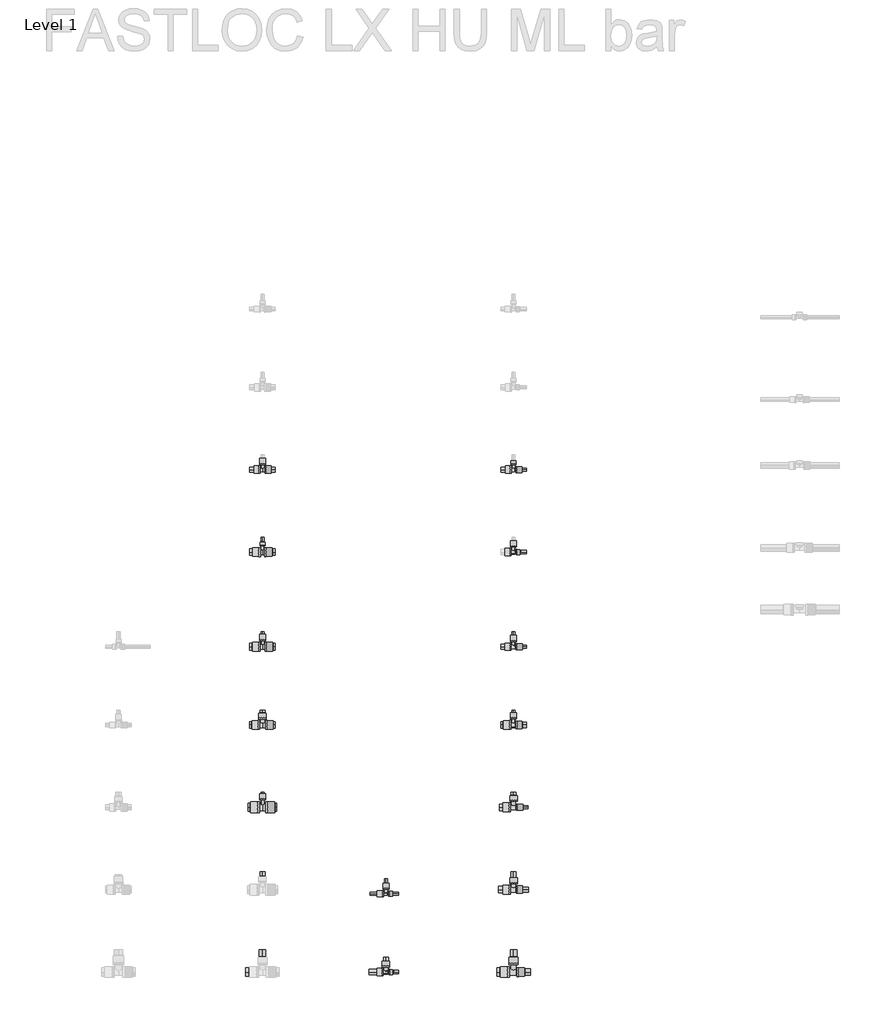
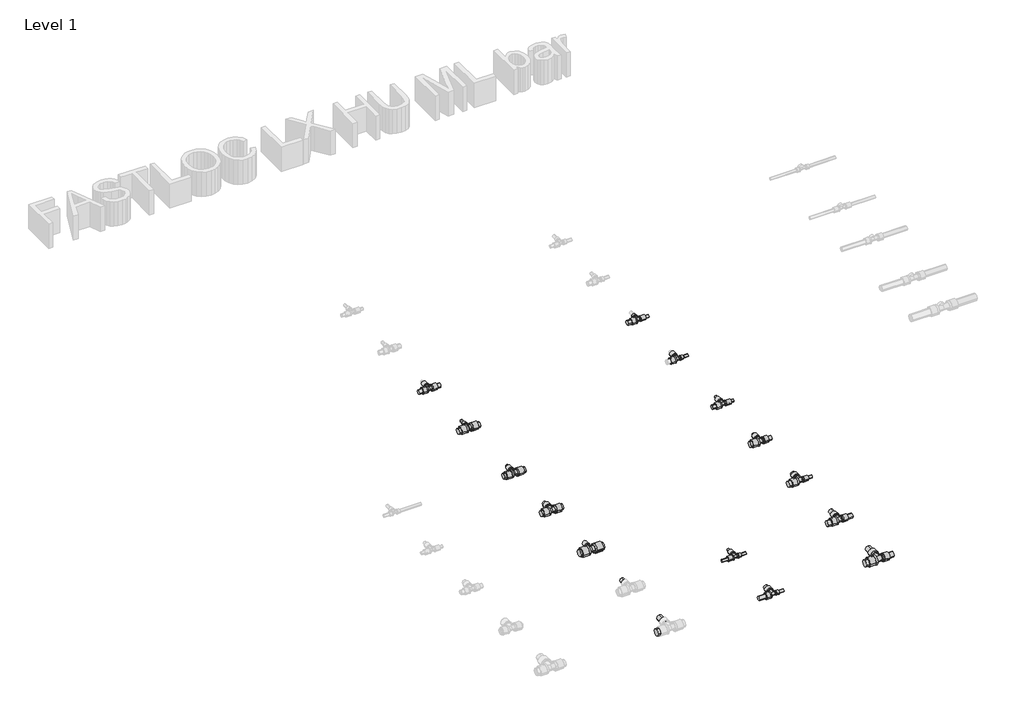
# One storey, part 25 of 78: 41 pipe segments, 14 pipe fittings.
"""IFC4 building model written with IfcOpenShell, lengths in millimetres."""

from ifc_helpers import new_model, si_unit, point, frame, frame_2d, origin, place, context, project, spatial, circle_curve, trimmed, segment, composite_curve, outline, extrude, transform, mapped, element, save
from components import pipe_fitting_7435f538, pipe_fitting_b40a3e3c, pipe_fitting_68251213, pipe_fitting_d9a56b63, pipe_fitting_a094db19, pipe_fitting_19df1a9e, pipe_fitting_16730f07, pipe_fitting_5d5decb5, pipe_fitting_f2600fd0, pipe_fitting_8d489ee2, pipe_fitting_c4e8b4db, pipe_fitting_757463f1, pipe_fitting_3bea6388, pipe_fitting_e638986c

model = new_model("IFC4")

# Units and contexts
model_context = context("Model", 3, world=origin())
ifc_project = project(units=[si_unit("LENGTHUNIT", "METRE", prefix="MILLI")], contexts=[model_context])

# Site, building, storey
site = spatial("IfcSite", under=ifc_project)
building = spatial("IfcBuilding", under=site)
storey = spatial("IfcBuildingStorey", under=building, Name="Level 1", Elevation=0.0)

# Pipe fittings
placement = place(None, origin())
pipe_fitting_shape = pipe_fitting_7435f538(model_context)
element("IfcPipeFitting", 1, ObjectType="FASTLOC_T-piece_LX : FSL T-Piece LX HU", at=placement, inside=storey, context=model_context, shape_type="MappedRepresentation", body=[
    mapped(pipe_fitting_shape, transform((426.7498072, -2880.2405791, 0.0), x_axis=(1.0, 0.0, 0.0), y_axis=(0.0, 1.0, 0.0), z_axis=(0.0, 0.0, 1.0))),
])
pipe_fitting_2_shape = pipe_fitting_b40a3e3c(model_context)
element("IfcPipeFitting", 2, ObjectType="FASTLOC_T-piece_LX : FSL T-Piece LX HU", at=placement, inside=storey, context=model_context, shape_type="MappedRepresentation", body=[
    mapped(pipe_fitting_2_shape, transform((426.7498072, -3260.2405791, 0.0), x_axis=(1.0, 0.0, 0.0), y_axis=(0.0, 1.0, 0.0), z_axis=(0.0, 0.0, 1.0))),
])
pipe_fitting_3_shape = pipe_fitting_68251213(model_context)
element("IfcPipeFitting", 3, ObjectType="FASTLOC_T-piece_LX : FSL T-Piece LX HU", at=placement, inside=storey, context=model_context, shape_type="MappedRepresentation", body=[
    mapped(pipe_fitting_3_shape, transform((426.7498072, -3660.2405791, 0.0), x_axis=(1.0, 0.0, 0.0), y_axis=(0.0, 1.0, 0.0), z_axis=(0.0, 0.0, 1.0))),
])
pipe_fitting_4_shape = pipe_fitting_d9a56b63(model_context)
element("IfcPipeFitting", 4, ObjectType="FASTLOC_T-piece_LX : FSL T-Piece LX HU", at=placement, inside=storey, context=model_context, shape_type="MappedRepresentation", body=[
    mapped(pipe_fitting_4_shape, transform((426.7498072, -2020.2405791, 0.0), x_axis=(1.0, 0.0, 0.0), y_axis=(0.0, 1.0, 0.0), z_axis=(0.0, 0.0, 1.0))),
])
pipe_fitting_5_shape = pipe_fitting_a094db19(model_context)
element("IfcPipeFitting", 5, ObjectType="FASTLOC_T-piece_LX : FSL T-Piece LX HU", at=placement, inside=storey, context=model_context, shape_type="MappedRepresentation", body=[
    mapped(pipe_fitting_5_shape, transform((426.7498072, -2420.2405791, 0.0), x_axis=(1.0, 0.0, 0.0), y_axis=(0.0, 1.0, 0.0), z_axis=(0.0, 0.0, 1.0))),
])
pipe_fitting_6_shape = pipe_fitting_19df1a9e(model_context)
element("IfcPipeFitting", 6, ObjectType="FASTLOC_T-piece_LX : FSL T-Piece LX HU", at=placement, inside=storey, context=model_context, shape_type="MappedRepresentation", body=[
    mapped(pipe_fitting_6_shape, transform((1026.7498072, -4080.2405791, 0.0), x_axis=(1.0, 0.0, 0.0), y_axis=(0.0, 1.0, 0.0), z_axis=(0.0, 0.0, 1.0))),
])
pipe_fitting_7_shape = pipe_fitting_16730f07(model_context)
element("IfcPipeFitting", 7, ObjectType="FASTLOC_T-piece_LX : FSL T-Piece LX HU", at=placement, inside=storey, context=model_context, shape_type="MappedRepresentation", body=[
    mapped(pipe_fitting_7_shape, transform((1026.7498072, -4460.2405791, 0.0), x_axis=(1.0, 0.0, 0.0), y_axis=(0.0, 1.0, 0.0), z_axis=(0.0, 0.0, 1.0))),
])
pipe_fitting_8_shape = pipe_fitting_5d5decb5(model_context)
element("IfcPipeFitting", 8, ObjectType="FASTLOC_T-piece_LX : FSL T-Piece LX HU", at=placement, inside=storey, context=model_context, shape_type="MappedRepresentation", body=[
    mapped(pipe_fitting_8_shape, transform((1646.7498072, -2880.2405791, 0.0), x_axis=(1.0, 0.0, 0.0), y_axis=(0.0, 1.0, 0.0), z_axis=(0.0, 0.0, 1.0))),
])
pipe_fitting_9_shape = pipe_fitting_f2600fd0(model_context)
element("IfcPipeFitting", 9, ObjectType="FASTLOC_T-piece_LX : FSL T-Piece LX HU", at=placement, inside=storey, context=model_context, shape_type="MappedRepresentation", body=[
    mapped(pipe_fitting_9_shape, transform((1646.7498072, -3260.2405791, 0.0), x_axis=(1.0, 0.0, 0.0), y_axis=(0.0, 1.0, 0.0), z_axis=(0.0, 0.0, 1.0))),
])
pipe_fitting_10_shape = pipe_fitting_8d489ee2(model_context)
element("IfcPipeFitting", 10, ObjectType="FASTLOC_T-piece_LX : FSL T-Piece LX HU", at=placement, inside=storey, context=model_context, shape_type="MappedRepresentation", body=[
    mapped(pipe_fitting_10_shape, transform((1646.7498072, -3660.2405791, 0.0), x_axis=(1.0, 0.0, 0.0), y_axis=(0.0, 1.0, 0.0), z_axis=(0.0, 0.0, 1.0))),
])
pipe_fitting_11_shape = pipe_fitting_c4e8b4db(model_context)
element("IfcPipeFitting", 11, ObjectType="FASTLOC_T-piece_LX : FSL T-Piece LX HU", at=placement, inside=storey, context=model_context, shape_type="MappedRepresentation", body=[
    mapped(pipe_fitting_11_shape, transform((1646.7498072, -4060.2405791, 0.0), x_axis=(1.0, 0.0, 0.0), y_axis=(0.0, 1.0, 0.0), z_axis=(0.0, 0.0, 1.0))),
])
pipe_fitting_12_shape = pipe_fitting_757463f1(model_context)
element("IfcPipeFitting", 12, ObjectType="FASTLOC_T-piece_LX : FSL T-Piece LX HU", at=placement, inside=storey, context=model_context, shape_type="MappedRepresentation", body=[
    mapped(pipe_fitting_12_shape, transform((1646.7498072, -4460.2405791, 0.0), x_axis=(1.0, 0.0, 0.0), y_axis=(0.0, 1.0, 0.0), z_axis=(0.0, 0.0, 1.0))),
])
pipe_fitting_13_shape = pipe_fitting_3bea6388(model_context)
element("IfcPipeFitting", 13, ObjectType="FASTLOC_T-piece_LX : FSL T-Piece LX HU", at=placement, inside=storey, context=model_context, shape_type="MappedRepresentation", body=[
    mapped(pipe_fitting_13_shape, transform((1646.7498072, -2020.2405791, 0.0), x_axis=(1.0, 0.0, 0.0), y_axis=(0.0, 1.0, 0.0), z_axis=(0.0, 0.0, 1.0))),
])
pipe_fitting_14_shape = pipe_fitting_e638986c(model_context)
element("IfcPipeFitting", 14, ObjectType="FASTLOC_T-piece_LX : FSL T-Piece LX HU", at=placement, inside=storey, context=model_context, shape_type="MappedRepresentation", body=[
    mapped(pipe_fitting_14_shape, transform((1646.7498072, -2420.2405791, 0.0), x_axis=(1.0, 0.0, 0.0), y_axis=(0.0, 1.0, 0.0), z_axis=(0.0, 0.0, 1.0))),
])

# Pipe segments
element("IfcPipeSegment", 15, ObjectType="FASTLOC LX ML HU bar", at=placement, inside=storey, context=model_context, shape_type="SweptSolid", body=[
    extrude(outline(composite_curve([segment(trimmed(circle_curve(frame_2d((-2880.2405791, 0.0)), 16.0), [point((-2896.2405791, 0.0))], [point((-2880.2405791, 16.0))], False, "CARTESIAN"), True, "CONTINUOUS"), segment(trimmed(circle_curve(frame_2d((-2880.2405791, 0.0)), 16.0), [point((-2880.2405791, 16.0))], [point((-2864.2405791, 0.0))], False, "CARTESIAN"), True, "CONTINUOUS"), segment(trimmed(circle_curve(frame_2d((-2880.2405791, 0.0)), 16.0), [point((-2864.2405791, 0.0))], [point((-2880.2405791, -16.0))], False, "CARTESIAN"), True, "CONTINUOUS"), segment(trimmed(circle_curve(frame_2d((-2880.2405791, 0.0)), 16.0), [point((-2880.2405791, -16.0))], [point((-2896.2405791, 0.0))], False, "CARTESIAN"), True, "CONTINUOUS")], self_intersect=False)), frame((446.9498072, 0.0, 0.0), z_axis=(1.0, 0.0, 0.0), x_axis=(0.0, 1.0, 0.0)), (0.0, 0.0, 1.0), 41.8),
])
element("IfcPipeSegment", 16, ObjectType="FASTLOC LX ML HU bar", at=placement, inside=storey, context=model_context, shape_type="SweptSolid", body=[
    extrude(outline(composite_curve([segment(trimmed(circle_curve(frame_2d((-2880.2405791, 0.0)), 16.0), [point((-2864.2405791, 0.0))], [point((-2880.2405791, -16.0))], False, "CARTESIAN"), True, "CONTINUOUS"), segment(trimmed(circle_curve(frame_2d((-2880.2405791, 0.0)), 16.0), [point((-2880.2405791, -16.0))], [point((-2896.2405791, 0.0))], False, "CARTESIAN"), True, "CONTINUOUS"), segment(trimmed(circle_curve(frame_2d((-2880.2405791, 0.0)), 16.0), [point((-2896.2405791, 0.0))], [point((-2880.2405791, 16.0))], False, "CARTESIAN"), True, "CONTINUOUS"), segment(trimmed(circle_curve(frame_2d((-2880.2405791, 0.0)), 16.0), [point((-2880.2405791, 16.0))], [point((-2864.2405791, 0.0))], False, "CARTESIAN"), True, "CONTINUOUS")], self_intersect=False)), frame((364.7498072, 0.0, 0.0), z_axis=(1.0, 0.0, 0.0), x_axis=(0.0, 1.0, 0.0)), (0.0, 0.0, 1.0), 41.8),
])
element("IfcPipeSegment", 17, ObjectType="FASTLOC LX ML HU bar", at=placement, inside=storey, context=model_context, shape_type="SweptSolid", body=[
    extrude(outline(composite_curve([segment(trimmed(circle_curve(frame_2d((0.0, 426.7498072)), 8.0), [point((0.0, 434.7498072))], [point((8.0, 426.7498072))], False, "CARTESIAN"), True, "CONTINUOUS"), segment(trimmed(circle_curve(frame_2d((0.0, 426.7498072)), 8.0), [point((8.0, 426.7498072))], [point((0.0, 418.7498072))], False, "CARTESIAN"), True, "CONTINUOUS"), segment(trimmed(circle_curve(frame_2d((0.0, 426.7498072)), 8.0), [point((0.0, 418.7498072))], [point((-8.0, 426.7498072))], False, "CARTESIAN"), True, "CONTINUOUS"), segment(trimmed(circle_curve(frame_2d((0.0, 426.7498072)), 8.0), [point((-8.0, 426.7498072))], [point((0.0, 434.7498072))], False, "CARTESIAN"), True, "CONTINUOUS")], self_intersect=False)), frame((0.0, -2846.2405791, 0.0), z_axis=(0.0, 1.0, 0.0), x_axis=(0.0, 0.0, 1.0)), (0.0, 0.0, 1.0), 38.3),
])
element("IfcPipeSegment", 18, ObjectType="FASTLOC LX ML HU bar", at=placement, inside=storey, context=model_context, shape_type="SweptSolid", body=[
    extrude(outline(composite_curve([segment(trimmed(circle_curve(frame_2d((-3260.2405791, 0.0)), 16.0), [point((-3276.2405791, 0.0))], [point((-3260.2405791, 16.0))], False, "CARTESIAN"), True, "CONTINUOUS"), segment(trimmed(circle_curve(frame_2d((-3260.2405791, 0.0)), 16.0), [point((-3260.2405791, 16.0))], [point((-3244.2405791, 0.0))], False, "CARTESIAN"), True, "CONTINUOUS"), segment(trimmed(circle_curve(frame_2d((-3260.2405791, 0.0)), 16.0), [point((-3244.2405791, 0.0))], [point((-3260.2405791, -16.0))], False, "CARTESIAN"), True, "CONTINUOUS"), segment(trimmed(circle_curve(frame_2d((-3260.2405791, 0.0)), 16.0), [point((-3260.2405791, -16.0))], [point((-3276.2405791, 0.0))], False, "CARTESIAN"), True, "CONTINUOUS")], self_intersect=False)), frame((448.7498072, 0.0, 0.0), z_axis=(1.0, 0.0, 0.0), x_axis=(0.0, 1.0, 0.0)), (0.0, 0.0, 1.0), 40.0),
])
element("IfcPipeSegment", 19, ObjectType="FASTLOC LX ML HU bar", at=placement, inside=storey, context=model_context, shape_type="SweptSolid", body=[
    extrude(outline(composite_curve([segment(trimmed(circle_curve(frame_2d((-3260.2405791, 0.0)), 16.0), [point((-3244.2405791, 0.0))], [point((-3260.2405791, -16.0))], False, "CARTESIAN"), True, "CONTINUOUS"), segment(trimmed(circle_curve(frame_2d((-3260.2405791, 0.0)), 16.0), [point((-3260.2405791, -16.0))], [point((-3276.2405791, 0.0))], False, "CARTESIAN"), True, "CONTINUOUS"), segment(trimmed(circle_curve(frame_2d((-3260.2405791, 0.0)), 16.0), [point((-3276.2405791, 0.0))], [point((-3260.2405791, 16.0))], False, "CARTESIAN"), True, "CONTINUOUS"), segment(trimmed(circle_curve(frame_2d((-3260.2405791, 0.0)), 16.0), [point((-3260.2405791, 16.0))], [point((-3244.2405791, 0.0))], False, "CARTESIAN"), True, "CONTINUOUS")], self_intersect=False)), frame((364.7498072, 0.0, 0.0), z_axis=(1.0, 0.0, 0.0), x_axis=(0.0, 1.0, 0.0)), (0.0, 0.0, 1.0), 40.0),
])
element("IfcPipeSegment", 20, ObjectType="FASTLOC LX ML HU bar", at=placement, inside=storey, context=model_context, shape_type="SweptSolid", body=[
    extrude(outline(composite_curve([segment(trimmed(circle_curve(frame_2d((0.0, 426.7498072)), 12.5), [point((0.0, 439.2498072))], [point((12.5, 426.7498072))], False, "CARTESIAN"), True, "CONTINUOUS"), segment(trimmed(circle_curve(frame_2d((0.0, 426.7498072)), 12.5), [point((12.5, 426.7498072))], [point((0.0, 414.2498072))], False, "CARTESIAN"), True, "CONTINUOUS"), segment(trimmed(circle_curve(frame_2d((0.0, 426.7498072)), 12.5), [point((0.0, 414.2498072))], [point((-12.5, 426.7498072))], False, "CARTESIAN"), True, "CONTINUOUS"), segment(trimmed(circle_curve(frame_2d((0.0, 426.7498072)), 12.5), [point((-12.5, 426.7498072))], [point((0.0, 439.2498072))], False, "CARTESIAN"), True, "CONTINUOUS")], self_intersect=False)), frame((0.0, -3225.8405791, 0.0), z_axis=(0.0, 1.0, 0.0), x_axis=(0.0, 0.0, 1.0)), (0.0, 0.0, 1.0), 37.9),
])
element("IfcPipeSegment", 21, ObjectType="FASTLOC LX ML HU bar", at=placement, inside=storey, context=model_context, shape_type="SweptSolid", body=[
    extrude(outline(composite_curve([segment(trimmed(circle_curve(frame_2d((-3660.2405791, 0.0)), 20.0), [point((-3680.2405791, 0.0))], [point((-3660.2405791, 20.0))], False, "CARTESIAN"), True, "CONTINUOUS"), segment(trimmed(circle_curve(frame_2d((-3660.2405791, 0.0)), 20.0), [point((-3660.2405791, 20.0))], [point((-3640.2405791, 0.0))], False, "CARTESIAN"), True, "CONTINUOUS"), segment(trimmed(circle_curve(frame_2d((-3660.2405791, 0.0)), 20.0), [point((-3640.2405791, 0.0))], [point((-3660.2405791, -20.0))], False, "CARTESIAN"), True, "CONTINUOUS"), segment(trimmed(circle_curve(frame_2d((-3660.2405791, 0.0)), 20.0), [point((-3660.2405791, -20.0))], [point((-3680.2405791, 0.0))], False, "CARTESIAN"), True, "CONTINUOUS")], self_intersect=False)), frame((450.7498072, 0.0, 0.0), z_axis=(1.0, 0.0, 0.0), x_axis=(0.0, 1.0, 0.0)), (0.0, 0.0, 1.0), 45.0),
])
element("IfcPipeSegment", 22, ObjectType="FASTLOC LX ML HU bar", at=placement, inside=storey, context=model_context, shape_type="SweptSolid", body=[
    extrude(outline(composite_curve([segment(trimmed(circle_curve(frame_2d((-3660.2405791, 0.0)), 20.0), [point((-3640.2405791, 0.0))], [point((-3660.2405791, -20.0))], False, "CARTESIAN"), True, "CONTINUOUS"), segment(trimmed(circle_curve(frame_2d((-3660.2405791, 0.0)), 20.0), [point((-3660.2405791, -20.0))], [point((-3680.2405791, 0.0))], False, "CARTESIAN"), True, "CONTINUOUS"), segment(trimmed(circle_curve(frame_2d((-3660.2405791, 0.0)), 20.0), [point((-3680.2405791, 0.0))], [point((-3660.2405791, 20.0))], False, "CARTESIAN"), True, "CONTINUOUS"), segment(trimmed(circle_curve(frame_2d((-3660.2405791, 0.0)), 20.0), [point((-3660.2405791, 20.0))], [point((-3640.2405791, 0.0))], False, "CARTESIAN"), True, "CONTINUOUS")], self_intersect=False)), frame((357.7498072, 0.0, 0.0), z_axis=(1.0, 0.0, 0.0), x_axis=(0.0, 1.0, 0.0)), (0.0, 0.0, 1.0), 45.0),
])
element("IfcPipeSegment", 23, ObjectType="FASTLOC LX ML HU bar", at=placement, inside=storey, context=model_context, shape_type="SweptSolid", body=[
    extrude(outline(composite_curve([segment(trimmed(circle_curve(frame_2d((0.0, 426.7498072)), 8.0), [point((0.0, 434.7498072))], [point((8.0, 426.7498072))], False, "CARTESIAN"), True, "CONTINUOUS"), segment(trimmed(circle_curve(frame_2d((0.0, 426.7498072)), 8.0), [point((8.0, 426.7498072))], [point((0.0, 418.7498072))], False, "CARTESIAN"), True, "CONTINUOUS"), segment(trimmed(circle_curve(frame_2d((0.0, 426.7498072)), 8.0), [point((0.0, 418.7498072))], [point((-8.0, 426.7498072))], False, "CARTESIAN"), True, "CONTINUOUS"), segment(trimmed(circle_curve(frame_2d((0.0, 426.7498072)), 8.0), [point((-8.0, 426.7498072))], [point((0.0, 434.7498072))], False, "CARTESIAN"), True, "CONTINUOUS")], self_intersect=False)), frame((0.0, -3619.7405791, 0.0), z_axis=(0.0, 1.0, 0.0), x_axis=(0.0, 0.0, 1.0)), (0.0, 0.0, 1.0), 31.8),
])
element("IfcPipeSegment", 24, ObjectType="FASTLOC LX ML HU bar", at=placement, inside=storey, context=model_context, shape_type="SweptSolid", body=[
    extrude(outline(composite_curve([segment(trimmed(circle_curve(frame_2d((0.0, 426.7498072)), 12.5), [point((0.0, 439.2498072))], [point((12.5, 426.7498072))], False, "CARTESIAN"), True, "CONTINUOUS"), segment(trimmed(circle_curve(frame_2d((0.0, 426.7498072)), 12.5), [point((12.5, 426.7498072))], [point((0.0, 414.2498072))], False, "CARTESIAN"), True, "CONTINUOUS"), segment(trimmed(circle_curve(frame_2d((0.0, 426.7498072)), 12.5), [point((0.0, 414.2498072))], [point((-12.5, 426.7498072))], False, "CARTESIAN"), True, "CONTINUOUS"), segment(trimmed(circle_curve(frame_2d((0.0, 426.7498072)), 12.5), [point((-12.5, 426.7498072))], [point((0.0, 439.2498072))], False, "CARTESIAN"), True, "CONTINUOUS")], self_intersect=False)), frame((0.0, -4019.2405791, 0.0), z_axis=(0.0, 1.0, 0.0), x_axis=(0.0, 0.0, 1.0)), (0.0, 0.0, 1.0), 46.8),
])
element("IfcPipeSegment", 25, ObjectType="FASTLOC LX ML HU bar", at=placement, inside=storey, context=model_context, shape_type="SweptSolid", body=[
    extrude(outline(composite_curve([segment(trimmed(circle_curve(frame_2d((-4460.2405791, 0.0)), 20.0), [point((-4440.2405791, 0.0))], [point((-4460.2405791, -20.0))], False, "CARTESIAN"), True, "CONTINUOUS"), segment(trimmed(circle_curve(frame_2d((-4460.2405791, 0.0)), 20.0), [point((-4460.2405791, -20.0))], [point((-4480.2405791, 0.0))], False, "CARTESIAN"), True, "CONTINUOUS"), segment(trimmed(circle_curve(frame_2d((-4460.2405791, 0.0)), 20.0), [point((-4480.2405791, 0.0))], [point((-4460.2405791, 20.0))], False, "CARTESIAN"), True, "CONTINUOUS"), segment(trimmed(circle_curve(frame_2d((-4460.2405791, 0.0)), 20.0), [point((-4460.2405791, 20.0))], [point((-4440.2405791, 0.0))], False, "CARTESIAN"), True, "CONTINUOUS")], self_intersect=False)), frame((345.3498072, 0.0, 0.0), z_axis=(1.0, 0.0, 0.0), x_axis=(0.0, 1.0, 0.0)), (0.0, 0.0, 1.0), 52.8),
])
element("IfcPipeSegment", 26, ObjectType="FASTLOC LX ML HU bar", at=placement, inside=storey, context=model_context, shape_type="SweptSolid", body=[
    extrude(outline(composite_curve([segment(trimmed(circle_curve(frame_2d((0.0, 426.7498072)), 16.0), [point((0.0, 442.7498072))], [point((16.0, 426.7498072))], False, "CARTESIAN"), True, "CONTINUOUS"), segment(trimmed(circle_curve(frame_2d((0.0, 426.7498072)), 16.0), [point((16.0, 426.7498072))], [point((0.0, 410.7498072))], False, "CARTESIAN"), True, "CONTINUOUS"), segment(trimmed(circle_curve(frame_2d((0.0, 426.7498072)), 16.0), [point((0.0, 410.7498072))], [point((-16.0, 426.7498072))], False, "CARTESIAN"), True, "CONTINUOUS"), segment(trimmed(circle_curve(frame_2d((0.0, 426.7498072)), 16.0), [point((-16.0, 426.7498072))], [point((0.0, 442.7498072))], False, "CARTESIAN"), True, "CONTINUOUS")], self_intersect=False)), frame((0.0, -4417.4405791, 0.0), z_axis=(0.0, 1.0, 0.0), x_axis=(0.0, 0.0, 1.0)), (0.0, 0.0, 1.0), 64.8),
])
element("IfcPipeSegment", 27, ObjectType="FASTLOC LX ML HU bar", at=placement, inside=storey, context=model_context, shape_type="SweptSolid", body=[
    extrude(outline(composite_curve([segment(trimmed(circle_curve(frame_2d((-2020.2405791, 0.0)), 12.5), [point((-2032.7405791, 0.0))], [point((-2020.2405791, 12.5))], False, "CARTESIAN"), True, "CONTINUOUS"), segment(trimmed(circle_curve(frame_2d((-2020.2405791, 0.0)), 12.5), [point((-2020.2405791, 12.5))], [point((-2007.7405791, 0.0))], False, "CARTESIAN"), True, "CONTINUOUS"), segment(trimmed(circle_curve(frame_2d((-2020.2405791, 0.0)), 12.5), [point((-2007.7405791, 0.0))], [point((-2020.2405791, -12.5))], False, "CARTESIAN"), True, "CONTINUOUS"), segment(trimmed(circle_curve(frame_2d((-2020.2405791, 0.0)), 12.5), [point((-2020.2405791, -12.5))], [point((-2032.7405791, 0.0))], False, "CARTESIAN"), True, "CONTINUOUS")], self_intersect=False)), frame((444.8498072, 0.0, 0.0), z_axis=(1.0, 0.0, 0.0), x_axis=(0.0, 1.0, 0.0)), (0.0, 0.0, 1.0), 43.9),
])
element("IfcPipeSegment", 28, ObjectType="FASTLOC LX ML HU bar", at=placement, inside=storey, context=model_context, shape_type="SweptSolid", body=[
    extrude(outline(composite_curve([segment(trimmed(circle_curve(frame_2d((-2020.2405791, 0.0)), 12.5), [point((-2007.7405791, 0.0))], [point((-2020.2405791, -12.5))], False, "CARTESIAN"), True, "CONTINUOUS"), segment(trimmed(circle_curve(frame_2d((-2020.2405791, 0.0)), 12.5), [point((-2020.2405791, -12.5))], [point((-2032.7405791, 0.0))], False, "CARTESIAN"), True, "CONTINUOUS"), segment(trimmed(circle_curve(frame_2d((-2020.2405791, 0.0)), 12.5), [point((-2032.7405791, 0.0))], [point((-2020.2405791, 12.5))], False, "CARTESIAN"), True, "CONTINUOUS"), segment(trimmed(circle_curve(frame_2d((-2020.2405791, 0.0)), 12.5), [point((-2020.2405791, 12.5))], [point((-2007.7405791, 0.0))], False, "CARTESIAN"), True, "CONTINUOUS")], self_intersect=False)), frame((364.7498072, 0.0, 0.0), z_axis=(1.0, 0.0, 0.0), x_axis=(0.0, 1.0, 0.0)), (0.0, 0.0, 1.0), 43.9),
])
element("IfcPipeSegment", 29, ObjectType="FASTLOC LX ML HU bar", at=placement, inside=storey, context=model_context, shape_type="SweptSolid", body=[
    extrude(outline(composite_curve([segment(trimmed(circle_curve(frame_2d((-2420.2405791, 0.0)), 16.0), [point((-2436.2405791, 0.0))], [point((-2420.2405791, 16.0))], False, "CARTESIAN"), True, "CONTINUOUS"), segment(trimmed(circle_curve(frame_2d((-2420.2405791, 0.0)), 16.0), [point((-2420.2405791, 16.0))], [point((-2404.2405791, 0.0))], False, "CARTESIAN"), True, "CONTINUOUS"), segment(trimmed(circle_curve(frame_2d((-2420.2405791, 0.0)), 16.0), [point((-2404.2405791, 0.0))], [point((-2420.2405791, -16.0))], False, "CARTESIAN"), True, "CONTINUOUS"), segment(trimmed(circle_curve(frame_2d((-2420.2405791, 0.0)), 16.0), [point((-2420.2405791, -16.0))], [point((-2436.2405791, 0.0))], False, "CARTESIAN"), True, "CONTINUOUS")], self_intersect=False)), frame((445.0498072, 0.0, 0.0), z_axis=(1.0, 0.0, 0.0), x_axis=(0.0, 1.0, 0.0)), (0.0, 0.0, 1.0), 43.7),
])
element("IfcPipeSegment", 30, ObjectType="FASTLOC LX ML HU bar", at=placement, inside=storey, context=model_context, shape_type="SweptSolid", body=[
    extrude(outline(composite_curve([segment(trimmed(circle_curve(frame_2d((-2420.2405791, 0.0)), 16.0), [point((-2404.2405791, 0.0))], [point((-2420.2405791, -16.0))], False, "CARTESIAN"), True, "CONTINUOUS"), segment(trimmed(circle_curve(frame_2d((-2420.2405791, 0.0)), 16.0), [point((-2420.2405791, -16.0))], [point((-2436.2405791, 0.0))], False, "CARTESIAN"), True, "CONTINUOUS"), segment(trimmed(circle_curve(frame_2d((-2420.2405791, 0.0)), 16.0), [point((-2436.2405791, 0.0))], [point((-2420.2405791, 16.0))], False, "CARTESIAN"), True, "CONTINUOUS"), segment(trimmed(circle_curve(frame_2d((-2420.2405791, 0.0)), 16.0), [point((-2420.2405791, 16.0))], [point((-2404.2405791, 0.0))], False, "CARTESIAN"), True, "CONTINUOUS")], self_intersect=False)), frame((364.7498072, 0.0, 0.0), z_axis=(1.0, 0.0, 0.0), x_axis=(0.0, 1.0, 0.0)), (0.0, 0.0, 1.0), 43.7),
])
element("IfcPipeSegment", 31, ObjectType="FASTLOC LX ML HU bar", at=placement, inside=storey, context=model_context, shape_type="SweptSolid", body=[
    extrude(outline(composite_curve([segment(trimmed(circle_curve(frame_2d((0.0, 426.7498072)), 8.0), [point((0.0, 434.7498072))], [point((8.0, 426.7498072))], False, "CARTESIAN"), True, "CONTINUOUS"), segment(trimmed(circle_curve(frame_2d((0.0, 426.7498072)), 8.0), [point((8.0, 426.7498072))], [point((0.0, 418.7498072))], False, "CARTESIAN"), True, "CONTINUOUS"), segment(trimmed(circle_curve(frame_2d((0.0, 426.7498072)), 8.0), [point((0.0, 418.7498072))], [point((-8.0, 426.7498072))], False, "CARTESIAN"), True, "CONTINUOUS"), segment(trimmed(circle_curve(frame_2d((0.0, 426.7498072)), 8.0), [point((-8.0, 426.7498072))], [point((0.0, 434.7498072))], False, "CARTESIAN"), True, "CONTINUOUS")], self_intersect=False)), frame((0.0, -2386.3405791, 0.0), z_axis=(0.0, 1.0, 0.0), x_axis=(0.0, 0.0, 1.0)), (0.0, 0.0, 1.0), 38.4),
])
element("IfcPipeSegment", 32, ObjectType="FASTLOC LX ML HU bar", at=placement, inside=storey, context=model_context, shape_type="SweptSolid", body=[
    extrude(outline(composite_curve([segment(trimmed(circle_curve(frame_2d((-4080.2405791, 0.0)), 8.0), [point((-4088.2405791, 0.0))], [point((-4080.2405791, 8.0))], False, "CARTESIAN"), True, "CONTINUOUS"), segment(trimmed(circle_curve(frame_2d((-4080.2405791, 0.0)), 8.0), [point((-4080.2405791, 8.0))], [point((-4072.2405791, 0.0))], False, "CARTESIAN"), True, "CONTINUOUS"), segment(trimmed(circle_curve(frame_2d((-4080.2405791, 0.0)), 8.0), [point((-4072.2405791, 0.0))], [point((-4080.2405791, -8.0))], False, "CARTESIAN"), True, "CONTINUOUS"), segment(trimmed(circle_curve(frame_2d((-4080.2405791, 0.0)), 8.0), [point((-4080.2405791, -8.0))], [point((-4088.2405791, 0.0))], False, "CARTESIAN"), True, "CONTINUOUS")], self_intersect=False)), frame((1043.7498072, 0.0, 0.0), z_axis=(1.0, 0.0, 0.0), x_axis=(0.0, 1.0, 0.0)), (0.0, 0.0, 1.0), 45.0),
])
element("IfcPipeSegment", 33, ObjectType="FASTLOC LX ML HU bar", at=placement, inside=storey, context=model_context, shape_type="SweptSolid", body=[
    extrude(outline(composite_curve([segment(trimmed(circle_curve(frame_2d((-4080.2405791, 0.0)), 8.0), [point((-4072.2405791, 0.0))], [point((-4080.2405791, -8.0))], False, "CARTESIAN"), True, "CONTINUOUS"), segment(trimmed(circle_curve(frame_2d((-4080.2405791, 0.0)), 8.0), [point((-4080.2405791, -8.0))], [point((-4088.2405791, 0.0))], False, "CARTESIAN"), True, "CONTINUOUS"), segment(trimmed(circle_curve(frame_2d((-4080.2405791, 0.0)), 8.0), [point((-4088.2405791, 0.0))], [point((-4080.2405791, 8.0))], False, "CARTESIAN"), True, "CONTINUOUS"), segment(trimmed(circle_curve(frame_2d((-4080.2405791, 0.0)), 8.0), [point((-4080.2405791, 8.0))], [point((-4072.2405791, 0.0))], False, "CARTESIAN"), True, "CONTINUOUS")], self_intersect=False)), frame((949.3498072, 0.0, 0.0), z_axis=(1.0, 0.0, 0.0), x_axis=(0.0, 1.0, 0.0)), (0.0, 0.0, 1.0), 60.0),
])
element("IfcPipeSegment", 34, ObjectType="FASTLOC LX ML HU bar", at=placement, inside=storey, context=model_context, shape_type="SweptSolid", body=[
    extrude(outline(composite_curve([segment(trimmed(circle_curve(frame_2d((0.0, 1026.7498072)), 8.0), [point((0.0, 1034.7498072))], [point((8.0, 1026.7498072))], False, "CARTESIAN"), True, "CONTINUOUS"), segment(trimmed(circle_curve(frame_2d((0.0, 1026.7498072)), 8.0), [point((8.0, 1026.7498072))], [point((0.0, 1018.7498072))], False, "CARTESIAN"), True, "CONTINUOUS"), segment(trimmed(circle_curve(frame_2d((0.0, 1026.7498072)), 8.0), [point((0.0, 1018.7498072))], [point((-8.0, 1026.7498072))], False, "CARTESIAN"), True, "CONTINUOUS"), segment(trimmed(circle_curve(frame_2d((0.0, 1026.7498072)), 8.0), [point((-8.0, 1026.7498072))], [point((0.0, 1034.7498072))], False, "CARTESIAN"), True, "CONTINUOUS")], self_intersect=False)), frame((0.0, -4053.8405791, 0.0), z_axis=(0.0, 1.0, 0.0), x_axis=(0.0, 0.0, 1.0)), (0.0, 0.0, 1.0), 45.9),
])
element("IfcPipeSegment", 35, ObjectType="FASTLOC LX ML HU bar", at=placement, inside=storey, context=model_context, shape_type="SweptSolid", body=[
    extrude(outline(composite_curve([segment(trimmed(circle_curve(frame_2d((-4460.2405791, 0.0)), 8.0), [point((-4468.2405791, 0.0))], [point((-4460.2405791, 8.0))], False, "CARTESIAN"), True, "CONTINUOUS"), segment(trimmed(circle_curve(frame_2d((-4460.2405791, 0.0)), 8.0), [point((-4460.2405791, 8.0))], [point((-4452.2405791, 0.0))], False, "CARTESIAN"), True, "CONTINUOUS"), segment(trimmed(circle_curve(frame_2d((-4460.2405791, 0.0)), 8.0), [point((-4452.2405791, 0.0))], [point((-4460.2405791, -8.0))], False, "CARTESIAN"), True, "CONTINUOUS"), segment(trimmed(circle_curve(frame_2d((-4460.2405791, 0.0)), 8.0), [point((-4460.2405791, -8.0))], [point((-4468.2405791, 0.0))], False, "CARTESIAN"), True, "CONTINUOUS")], self_intersect=False)), frame((1045.5498072, 0.0, 0.0), z_axis=(1.0, 0.0, 0.0), x_axis=(0.0, 1.0, 0.0)), (0.0, 0.0, 1.0), 43.2),
])
element("IfcPipeSegment", 36, ObjectType="FASTLOC LX ML HU bar", at=placement, inside=storey, context=model_context, shape_type="SweptSolid", body=[
    extrude(outline(composite_curve([segment(trimmed(circle_curve(frame_2d((-4460.2405791, 0.0)), 12.5), [point((-4447.7405791, 0.0))], [point((-4460.2405791, -12.5))], False, "CARTESIAN"), True, "CONTINUOUS"), segment(trimmed(circle_curve(frame_2d((-4460.2405791, 0.0)), 12.5), [point((-4460.2405791, -12.5))], [point((-4472.7405791, 0.0))], False, "CARTESIAN"), True, "CONTINUOUS"), segment(trimmed(circle_curve(frame_2d((-4460.2405791, 0.0)), 12.5), [point((-4472.7405791, 0.0))], [point((-4460.2405791, 12.5))], False, "CARTESIAN"), True, "CONTINUOUS"), segment(trimmed(circle_curve(frame_2d((-4460.2405791, 0.0)), 12.5), [point((-4460.2405791, 12.5))], [point((-4447.7405791, 0.0))], False, "CARTESIAN"), True, "CONTINUOUS")], self_intersect=False)), frame((944.3498072, 0.0, 0.0), z_axis=(1.0, 0.0, 0.0), x_axis=(0.0, 1.0, 0.0)), (0.0, 0.0, 1.0), 62.3),
])
element("IfcPipeSegment", 37, ObjectType="FASTLOC LX ML HU bar", at=placement, inside=storey, context=model_context, shape_type="SweptSolid", body=[
    extrude(outline(composite_curve([segment(trimmed(circle_curve(frame_2d((0.0, 1026.7498072)), 12.5), [point((0.0, 1039.2498072))], [point((12.5, 1026.7498072))], False, "CARTESIAN"), True, "CONTINUOUS"), segment(trimmed(circle_curve(frame_2d((0.0, 1026.7498072)), 12.5), [point((12.5, 1026.7498072))], [point((0.0, 1014.2498072))], False, "CARTESIAN"), True, "CONTINUOUS"), segment(trimmed(circle_curve(frame_2d((0.0, 1026.7498072)), 12.5), [point((0.0, 1014.2498072))], [point((-12.5, 1026.7498072))], False, "CARTESIAN"), True, "CONTINUOUS"), segment(trimmed(circle_curve(frame_2d((0.0, 1026.7498072)), 12.5), [point((-12.5, 1026.7498072))], [point((0.0, 1039.2498072))], False, "CARTESIAN"), True, "CONTINUOUS")], self_intersect=False)), frame((0.0, -4430.7405791, 0.0), z_axis=(0.0, 1.0, 0.0), x_axis=(0.0, 0.0, 1.0)), (0.0, 0.0, 1.0), 42.8),
])
element("IfcPipeSegment", 38, ObjectType="FASTLOC LX ML HU bar", at=placement, inside=storey, context=model_context, shape_type="SweptSolid", body=[
    extrude(outline(composite_curve([segment(trimmed(circle_curve(frame_2d((-2880.2405791, 0.0)), 8.0), [point((-2888.2405791, 0.0))], [point((-2880.2405791, 8.0))], False, "CARTESIAN"), True, "CONTINUOUS"), segment(trimmed(circle_curve(frame_2d((-2880.2405791, 0.0)), 8.0), [point((-2880.2405791, 8.0))], [point((-2872.2405791, 0.0))], False, "CARTESIAN"), True, "CONTINUOUS"), segment(trimmed(circle_curve(frame_2d((-2880.2405791, 0.0)), 8.0), [point((-2872.2405791, 0.0))], [point((-2880.2405791, -8.0))], False, "CARTESIAN"), True, "CONTINUOUS"), segment(trimmed(circle_curve(frame_2d((-2880.2405791, 0.0)), 8.0), [point((-2880.2405791, -8.0))], [point((-2888.2405791, 0.0))], False, "CARTESIAN"), True, "CONTINUOUS")], self_intersect=False)), frame((1664.1498072, 0.0, 0.0), z_axis=(1.0, 0.0, 0.0), x_axis=(0.0, 1.0, 0.0)), (0.0, 0.0, 1.0), 44.6),
])
element("IfcPipeSegment", 39, ObjectType="FASTLOC LX ML HU bar", at=placement, inside=storey, context=model_context, shape_type="SweptSolid", body=[
    extrude(outline(composite_curve([segment(trimmed(circle_curve(frame_2d((-2880.2405791, 0.0)), 12.5), [point((-2867.7405791, 0.0))], [point((-2880.2405791, -12.5))], False, "CARTESIAN"), True, "CONTINUOUS"), segment(trimmed(circle_curve(frame_2d((-2880.2405791, 0.0)), 12.5), [point((-2880.2405791, -12.5))], [point((-2892.7405791, 0.0))], False, "CARTESIAN"), True, "CONTINUOUS"), segment(trimmed(circle_curve(frame_2d((-2880.2405791, 0.0)), 12.5), [point((-2892.7405791, 0.0))], [point((-2880.2405791, 12.5))], False, "CARTESIAN"), True, "CONTINUOUS"), segment(trimmed(circle_curve(frame_2d((-2880.2405791, 0.0)), 12.5), [point((-2880.2405791, 12.5))], [point((-2867.7405791, 0.0))], False, "CARTESIAN"), True, "CONTINUOUS")], self_intersect=False)), frame((1584.7498072, 0.0, 0.0), z_axis=(1.0, 0.0, 0.0), x_axis=(0.0, 1.0, 0.0)), (0.0, 0.0, 1.0), 43.7),
])
element("IfcPipeSegment", 40, ObjectType="FASTLOC LX ML HU bar", at=placement, inside=storey, context=model_context, shape_type="SweptSolid", body=[
    extrude(outline(composite_curve([segment(trimmed(circle_curve(frame_2d((0.0, 1646.7498072)), 8.0), [point((0.0, 1654.7498072))], [point((8.0, 1646.7498072))], False, "CARTESIAN"), True, "CONTINUOUS"), segment(trimmed(circle_curve(frame_2d((0.0, 1646.7498072)), 8.0), [point((8.0, 1646.7498072))], [point((0.0, 1638.7498072))], False, "CARTESIAN"), True, "CONTINUOUS"), segment(trimmed(circle_curve(frame_2d((0.0, 1646.7498072)), 8.0), [point((0.0, 1638.7498072))], [point((-8.0, 1646.7498072))], False, "CARTESIAN"), True, "CONTINUOUS"), segment(trimmed(circle_curve(frame_2d((0.0, 1646.7498072)), 8.0), [point((-8.0, 1646.7498072))], [point((0.0, 1654.7498072))], False, "CARTESIAN"), True, "CONTINUOUS")], self_intersect=False)), frame((0.0, -2851.0405791, 0.0), z_axis=(0.0, 1.0, 0.0), x_axis=(0.0, 0.0, 1.0)), (0.0, 0.0, 1.0), 43.1),
])
element("IfcPipeSegment", 41, ObjectType="FASTLOC LX ML HU bar", at=placement, inside=storey, context=model_context, shape_type="SweptSolid", body=[
    extrude(outline(composite_curve([segment(trimmed(circle_curve(frame_2d((-3260.2405791, 0.0)), 12.5), [point((-3272.7405791, 0.0))], [point((-3260.2405791, 12.5))], False, "CARTESIAN"), True, "CONTINUOUS"), segment(trimmed(circle_curve(frame_2d((-3260.2405791, 0.0)), 12.5), [point((-3260.2405791, 12.5))], [point((-3247.7405791, 0.0))], False, "CARTESIAN"), True, "CONTINUOUS"), segment(trimmed(circle_curve(frame_2d((-3260.2405791, 0.0)), 12.5), [point((-3247.7405791, 0.0))], [point((-3260.2405791, -12.5))], False, "CARTESIAN"), True, "CONTINUOUS"), segment(trimmed(circle_curve(frame_2d((-3260.2405791, 0.0)), 12.5), [point((-3260.2405791, -12.5))], [point((-3272.7405791, 0.0))], False, "CARTESIAN"), True, "CONTINUOUS")], self_intersect=False)), frame((1665.0498072, 0.0, 0.0), z_axis=(1.0, 0.0, 0.0), x_axis=(0.0, 1.0, 0.0)), (0.0, 0.0, 1.0), 43.7),
])
element("IfcPipeSegment", 42, ObjectType="FASTLOC LX ML HU bar", at=placement, inside=storey, context=model_context, shape_type="SweptSolid", body=[
    extrude(outline(composite_curve([segment(trimmed(circle_curve(frame_2d((-3260.2405791, 0.0)), 16.0), [point((-3244.2405791, 0.0))], [point((-3260.2405791, -16.0))], False, "CARTESIAN"), True, "CONTINUOUS"), segment(trimmed(circle_curve(frame_2d((-3260.2405791, 0.0)), 16.0), [point((-3260.2405791, -16.0))], [point((-3276.2405791, 0.0))], False, "CARTESIAN"), True, "CONTINUOUS"), segment(trimmed(circle_curve(frame_2d((-3260.2405791, 0.0)), 16.0), [point((-3276.2405791, 0.0))], [point((-3260.2405791, 16.0))], False, "CARTESIAN"), True, "CONTINUOUS"), segment(trimmed(circle_curve(frame_2d((-3260.2405791, 0.0)), 16.0), [point((-3260.2405791, 16.0))], [point((-3244.2405791, 0.0))], False, "CARTESIAN"), True, "CONTINUOUS")], self_intersect=False)), frame((1584.7498072, 0.0, 0.0), z_axis=(1.0, 0.0, 0.0), x_axis=(0.0, 1.0, 0.0)), (0.0, 0.0, 1.0), 41.7),
])
element("IfcPipeSegment", 43, ObjectType="FASTLOC LX ML HU bar", at=placement, inside=storey, context=model_context, shape_type="SweptSolid", body=[
    extrude(outline(composite_curve([segment(trimmed(circle_curve(frame_2d((0.0, 1646.7498072)), 8.0), [point((0.0, 1654.7498072))], [point((8.0, 1646.7498072))], False, "CARTESIAN"), True, "CONTINUOUS"), segment(trimmed(circle_curve(frame_2d((0.0, 1646.7498072)), 8.0), [point((8.0, 1646.7498072))], [point((0.0, 1638.7498072))], False, "CARTESIAN"), True, "CONTINUOUS"), segment(trimmed(circle_curve(frame_2d((0.0, 1646.7498072)), 8.0), [point((0.0, 1638.7498072))], [point((-8.0, 1646.7498072))], False, "CARTESIAN"), True, "CONTINUOUS"), segment(trimmed(circle_curve(frame_2d((0.0, 1646.7498072)), 8.0), [point((-8.0, 1646.7498072))], [point((0.0, 1654.7498072))], False, "CARTESIAN"), True, "CONTINUOUS")], self_intersect=False)), frame((0.0, -3226.2405791, 0.0), z_axis=(0.0, 1.0, 0.0), x_axis=(0.0, 0.0, 1.0)), (0.0, 0.0, 1.0), 38.3),
])
element("IfcPipeSegment", 44, ObjectType="FASTLOC LX ML HU bar", at=placement, inside=storey, context=model_context, shape_type="SweptSolid", body=[
    extrude(outline(composite_curve([segment(trimmed(circle_curve(frame_2d((-3660.2405791, 0.0)), 8.0), [point((-3668.2405791, 0.0))], [point((-3660.2405791, 8.0))], False, "CARTESIAN"), True, "CONTINUOUS"), segment(trimmed(circle_curve(frame_2d((-3660.2405791, 0.0)), 8.0), [point((-3660.2405791, 8.0))], [point((-3652.2405791, 0.0))], False, "CARTESIAN"), True, "CONTINUOUS"), segment(trimmed(circle_curve(frame_2d((-3660.2405791, 0.0)), 8.0), [point((-3652.2405791, 0.0))], [point((-3660.2405791, -8.0))], False, "CARTESIAN"), True, "CONTINUOUS"), segment(trimmed(circle_curve(frame_2d((-3660.2405791, 0.0)), 8.0), [point((-3660.2405791, -8.0))], [point((-3668.2405791, 0.0))], False, "CARTESIAN"), True, "CONTINUOUS")], self_intersect=False)), frame((1665.9498072, 0.0, 0.0), z_axis=(1.0, 0.0, 0.0), x_axis=(0.0, 1.0, 0.0)), (0.0, 0.0, 1.0), 49.8),
])
element("IfcPipeSegment", 45, ObjectType="FASTLOC LX ML HU bar", at=placement, inside=storey, context=model_context, shape_type="SweptSolid", body=[
    extrude(outline(composite_curve([segment(trimmed(circle_curve(frame_2d((-3660.2405791, 0.0)), 16.0), [point((-3644.2405791, 0.0))], [point((-3660.2405791, -16.0))], False, "CARTESIAN"), True, "CONTINUOUS"), segment(trimmed(circle_curve(frame_2d((-3660.2405791, 0.0)), 16.0), [point((-3660.2405791, -16.0))], [point((-3676.2405791, 0.0))], False, "CARTESIAN"), True, "CONTINUOUS"), segment(trimmed(circle_curve(frame_2d((-3660.2405791, 0.0)), 16.0), [point((-3676.2405791, 0.0))], [point((-3660.2405791, 16.0))], False, "CARTESIAN"), True, "CONTINUOUS"), segment(trimmed(circle_curve(frame_2d((-3660.2405791, 0.0)), 16.0), [point((-3660.2405791, 16.0))], [point((-3644.2405791, 0.0))], False, "CARTESIAN"), True, "CONTINUOUS")], self_intersect=False)), frame((1577.7498072, 0.0, 0.0), z_axis=(1.0, 0.0, 0.0), x_axis=(0.0, 1.0, 0.0)), (0.0, 0.0, 1.0), 46.9),
])
element("IfcPipeSegment", 46, ObjectType="FASTLOC LX ML HU bar", at=placement, inside=storey, context=model_context, shape_type="SweptSolid", body=[
    extrude(outline(composite_curve([segment(trimmed(circle_curve(frame_2d((0.0, 1646.7498072)), 12.5), [point((0.0, 1659.2498072))], [point((12.5, 1646.7498072))], False, "CARTESIAN"), True, "CONTINUOUS"), segment(trimmed(circle_curve(frame_2d((0.0, 1646.7498072)), 12.5), [point((12.5, 1646.7498072))], [point((0.0, 1634.2498072))], False, "CARTESIAN"), True, "CONTINUOUS"), segment(trimmed(circle_curve(frame_2d((0.0, 1646.7498072)), 12.5), [point((0.0, 1634.2498072))], [point((-12.5, 1646.7498072))], False, "CARTESIAN"), True, "CONTINUOUS"), segment(trimmed(circle_curve(frame_2d((0.0, 1646.7498072)), 12.5), [point((-12.5, 1646.7498072))], [point((0.0, 1659.2498072))], False, "CARTESIAN"), True, "CONTINUOUS")], self_intersect=False)), frame((0.0, -3625.8405791, 0.0), z_axis=(0.0, 1.0, 0.0), x_axis=(0.0, 0.0, 1.0)), (0.0, 0.0, 1.0), 37.9),
])
element("IfcPipeSegment", 47, ObjectType="FASTLOC LX ML HU bar", at=placement, inside=storey, context=model_context, shape_type="SweptSolid", body=[
    extrude(outline(composite_curve([segment(trimmed(circle_curve(frame_2d((-4060.2405791, 0.0)), 12.5), [point((-4072.7405791, 0.0))], [point((-4060.2405791, 12.5))], False, "CARTESIAN"), True, "CONTINUOUS"), segment(trimmed(circle_curve(frame_2d((-4060.2405791, 0.0)), 12.5), [point((-4060.2405791, 12.5))], [point((-4047.7405791, 0.0))], False, "CARTESIAN"), True, "CONTINUOUS"), segment(trimmed(circle_curve(frame_2d((-4060.2405791, 0.0)), 12.5), [point((-4047.7405791, 0.0))], [point((-4060.2405791, -12.5))], False, "CARTESIAN"), True, "CONTINUOUS"), segment(trimmed(circle_curve(frame_2d((-4060.2405791, 0.0)), 12.5), [point((-4060.2405791, -12.5))], [point((-4072.7405791, 0.0))], False, "CARTESIAN"), True, "CONTINUOUS")], self_intersect=False)), frame((1666.8498072, 0.0, 0.0), z_axis=(1.0, 0.0, 0.0), x_axis=(0.0, 1.0, 0.0)), (0.0, 0.0, 1.0), 53.5),
])
element("IfcPipeSegment", 48, ObjectType="FASTLOC LX ML HU bar", at=placement, inside=storey, context=model_context, shape_type="SweptSolid", body=[
    extrude(outline(composite_curve([segment(trimmed(circle_curve(frame_2d((-4060.2405791, 0.0)), 16.0), [point((-4044.2405791, 0.0))], [point((-4060.2405791, -16.0))], False, "CARTESIAN"), True, "CONTINUOUS"), segment(trimmed(circle_curve(frame_2d((-4060.2405791, 0.0)), 16.0), [point((-4060.2405791, -16.0))], [point((-4076.2405791, 0.0))], False, "CARTESIAN"), True, "CONTINUOUS"), segment(trimmed(circle_curve(frame_2d((-4060.2405791, 0.0)), 16.0), [point((-4076.2405791, 0.0))], [point((-4060.2405791, 16.0))], False, "CARTESIAN"), True, "CONTINUOUS"), segment(trimmed(circle_curve(frame_2d((-4060.2405791, 0.0)), 16.0), [point((-4060.2405791, 16.0))], [point((-4044.2405791, 0.0))], False, "CARTESIAN"), True, "CONTINUOUS")], self_intersect=False)), frame((1573.1498072, 0.0, 0.0), z_axis=(1.0, 0.0, 0.0), x_axis=(0.0, 1.0, 0.0)), (0.0, 0.0, 1.0), 51.5),
])
element("IfcPipeSegment", 49, ObjectType="FASTLOC LX ML HU bar", at=placement, inside=storey, context=model_context, shape_type="SweptSolid", body=[
    extrude(outline(composite_curve([segment(trimmed(circle_curve(frame_2d((0.0, 1646.7498072)), 12.5), [point((0.0, 1659.2498072))], [point((12.5, 1646.7498072))], False, "CARTESIAN"), True, "CONTINUOUS"), segment(trimmed(circle_curve(frame_2d((0.0, 1646.7498072)), 12.5), [point((12.5, 1646.7498072))], [point((0.0, 1634.2498072))], False, "CARTESIAN"), True, "CONTINUOUS"), segment(trimmed(circle_curve(frame_2d((0.0, 1646.7498072)), 12.5), [point((0.0, 1634.2498072))], [point((-12.5, 1646.7498072))], False, "CARTESIAN"), True, "CONTINUOUS"), segment(trimmed(circle_curve(frame_2d((0.0, 1646.7498072)), 12.5), [point((-12.5, 1646.7498072))], [point((0.0, 1659.2498072))], False, "CARTESIAN"), True, "CONTINUOUS")], self_intersect=False)), frame((0.0, -4025.8405791, 0.0), z_axis=(0.0, 1.0, 0.0), x_axis=(0.0, 0.0, 1.0)), (0.0, 0.0, 1.0), 53.4),
])
element("IfcPipeSegment", 50, ObjectType="FASTLOC LX ML HU bar", at=placement, inside=storey, context=model_context, shape_type="SweptSolid", body=[
    extrude(outline(composite_curve([segment(trimmed(circle_curve(frame_2d((-4460.2405791, 0.0)), 16.0), [point((-4476.2405791, 0.0))], [point((-4460.2405791, 16.0))], False, "CARTESIAN"), True, "CONTINUOUS"), segment(trimmed(circle_curve(frame_2d((-4460.2405791, 0.0)), 16.0), [point((-4460.2405791, 16.0))], [point((-4444.2405791, 0.0))], False, "CARTESIAN"), True, "CONTINUOUS"), segment(trimmed(circle_curve(frame_2d((-4460.2405791, 0.0)), 16.0), [point((-4444.2405791, 0.0))], [point((-4460.2405791, -16.0))], False, "CARTESIAN"), True, "CONTINUOUS"), segment(trimmed(circle_curve(frame_2d((-4460.2405791, 0.0)), 16.0), [point((-4460.2405791, -16.0))], [point((-4476.2405791, 0.0))], False, "CARTESIAN"), True, "CONTINUOUS")], self_intersect=False)), frame((1671.6498072, 0.0, 0.0), z_axis=(1.0, 0.0, 0.0), x_axis=(0.0, 1.0, 0.0)), (0.0, 0.0, 1.0), 56.5),
])
element("IfcPipeSegment", 51, ObjectType="FASTLOC LX ML HU bar", at=placement, inside=storey, context=model_context, shape_type="SweptSolid", body=[
    extrude(outline(composite_curve([segment(trimmed(circle_curve(frame_2d((-4460.2405791, 0.0)), 20.0), [point((-4440.2405791, 0.0))], [point((-4460.2405791, -20.0))], False, "CARTESIAN"), True, "CONTINUOUS"), segment(trimmed(circle_curve(frame_2d((-4460.2405791, 0.0)), 20.0), [point((-4460.2405791, -20.0))], [point((-4480.2405791, 0.0))], False, "CARTESIAN"), True, "CONTINUOUS"), segment(trimmed(circle_curve(frame_2d((-4460.2405791, 0.0)), 20.0), [point((-4480.2405791, 0.0))], [point((-4460.2405791, 20.0))], False, "CARTESIAN"), True, "CONTINUOUS"), segment(trimmed(circle_curve(frame_2d((-4460.2405791, 0.0)), 20.0), [point((-4460.2405791, 20.0))], [point((-4440.2405791, 0.0))], False, "CARTESIAN"), True, "CONTINUOUS")], self_intersect=False)), frame((1565.3498072, 0.0, 0.0), z_axis=(1.0, 0.0, 0.0), x_axis=(0.0, 1.0, 0.0)), (0.0, 0.0, 1.0), 52.7),
])
element("IfcPipeSegment", 52, ObjectType="FASTLOC LX ML HU bar", at=placement, inside=storey, context=model_context, shape_type="SweptSolid", body=[
    extrude(outline(composite_curve([segment(trimmed(circle_curve(frame_2d((0.0, 1646.7498072)), 16.0), [point((0.0, 1662.7498072))], [point((16.0, 1646.7498072))], False, "CARTESIAN"), True, "CONTINUOUS"), segment(trimmed(circle_curve(frame_2d((0.0, 1646.7498072)), 16.0), [point((16.0, 1646.7498072))], [point((0.0, 1630.7498072))], False, "CARTESIAN"), True, "CONTINUOUS"), segment(trimmed(circle_curve(frame_2d((0.0, 1646.7498072)), 16.0), [point((0.0, 1630.7498072))], [point((-16.0, 1646.7498072))], False, "CARTESIAN"), True, "CONTINUOUS"), segment(trimmed(circle_curve(frame_2d((0.0, 1646.7498072)), 16.0), [point((-16.0, 1646.7498072))], [point((0.0, 1662.7498072))], False, "CARTESIAN"), True, "CONTINUOUS")], self_intersect=False)), frame((0.0, -4417.4405791, 0.0), z_axis=(0.0, 1.0, 0.0), x_axis=(0.0, 0.0, 1.0)), (0.0, 0.0, 1.0), 64.8),
])
element("IfcPipeSegment", 53, ObjectType="FASTLOC LX ML HU bar", at=placement, inside=storey, context=model_context, shape_type="SweptSolid", body=[
    extrude(outline(composite_curve([segment(trimmed(circle_curve(frame_2d((-2020.2405791, 0.0)), 8.0), [point((-2028.2405791, 0.0))], [point((-2020.2405791, 8.0))], False, "CARTESIAN"), True, "CONTINUOUS"), segment(trimmed(circle_curve(frame_2d((-2020.2405791, 0.0)), 8.0), [point((-2020.2405791, 8.0))], [point((-2012.2405791, 0.0))], False, "CARTESIAN"), True, "CONTINUOUS"), segment(trimmed(circle_curve(frame_2d((-2020.2405791, 0.0)), 8.0), [point((-2012.2405791, 0.0))], [point((-2020.2405791, -8.0))], False, "CARTESIAN"), True, "CONTINUOUS"), segment(trimmed(circle_curve(frame_2d((-2020.2405791, 0.0)), 8.0), [point((-2020.2405791, -8.0))], [point((-2028.2405791, 0.0))], False, "CARTESIAN"), True, "CONTINUOUS")], self_intersect=False)), frame((1662.2498072, 0.0, 0.0), z_axis=(1.0, 0.0, 0.0), x_axis=(0.0, 1.0, 0.0)), (0.0, 0.0, 1.0), 46.5),
])
element("IfcPipeSegment", 54, ObjectType="FASTLOC LX ML HU bar", at=placement, inside=storey, context=model_context, shape_type="SweptSolid", body=[
    extrude(outline(composite_curve([segment(trimmed(circle_curve(frame_2d((-2020.2405791, 0.0)), 12.5), [point((-2007.7405791, 0.0))], [point((-2020.2405791, -12.5))], False, "CARTESIAN"), True, "CONTINUOUS"), segment(trimmed(circle_curve(frame_2d((-2020.2405791, 0.0)), 12.5), [point((-2020.2405791, -12.5))], [point((-2032.7405791, 0.0))], False, "CARTESIAN"), True, "CONTINUOUS"), segment(trimmed(circle_curve(frame_2d((-2020.2405791, 0.0)), 12.5), [point((-2032.7405791, 0.0))], [point((-2020.2405791, 12.5))], False, "CARTESIAN"), True, "CONTINUOUS"), segment(trimmed(circle_curve(frame_2d((-2020.2405791, 0.0)), 12.5), [point((-2020.2405791, 12.5))], [point((-2007.7405791, 0.0))], False, "CARTESIAN"), True, "CONTINUOUS")], self_intersect=False)), frame((1584.7498072, 0.0, 0.0), z_axis=(1.0, 0.0, 0.0), x_axis=(0.0, 1.0, 0.0)), (0.0, 0.0, 1.0), 45.6),
])
element("IfcPipeSegment", 55, ObjectType="FASTLOC LX ML HU bar", at=placement, inside=storey, context=model_context, shape_type="SweptSolid", body=[
    extrude(outline(composite_curve([segment(trimmed(circle_curve(frame_2d((-2420.2405791, 0.0)), 8.0), [point((-2428.2405791, 0.0))], [point((-2420.2405791, 8.0))], False, "CARTESIAN"), True, "CONTINUOUS"), segment(trimmed(circle_curve(frame_2d((-2420.2405791, 0.0)), 8.0), [point((-2420.2405791, 8.0))], [point((-2412.2405791, 0.0))], False, "CARTESIAN"), True, "CONTINUOUS"), segment(trimmed(circle_curve(frame_2d((-2420.2405791, 0.0)), 8.0), [point((-2412.2405791, 0.0))], [point((-2420.2405791, -8.0))], False, "CARTESIAN"), True, "CONTINUOUS"), segment(trimmed(circle_curve(frame_2d((-2420.2405791, 0.0)), 8.0), [point((-2420.2405791, -8.0))], [point((-2428.2405791, 0.0))], False, "CARTESIAN"), True, "CONTINUOUS")], self_intersect=False)), frame((1663.7498072, 0.0, 0.0), z_axis=(1.0, 0.0, 0.0), x_axis=(0.0, 1.0, 0.0)), (0.0, 0.0, 1.0), 45.0),
])

save(model, "model.ifc")
